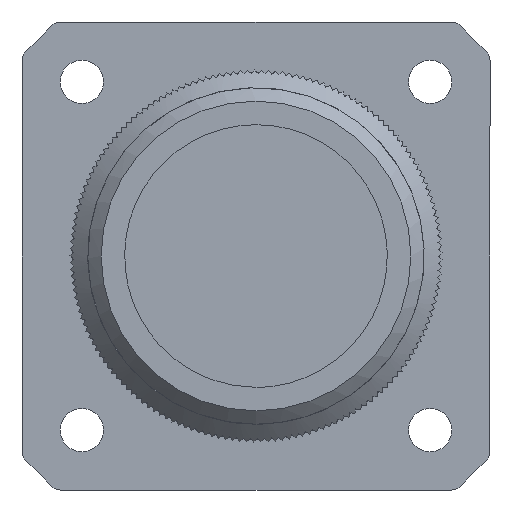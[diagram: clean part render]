
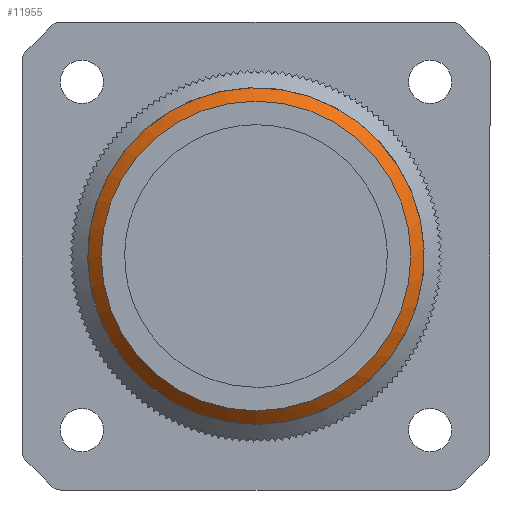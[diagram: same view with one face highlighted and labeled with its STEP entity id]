
A CAD part, front view. The second image highlights one B-rep face of the part: STEP entity #11955.
In plain terms, the highlighted conical face has half-angle 45 degrees and reference radius 11.65 mm.
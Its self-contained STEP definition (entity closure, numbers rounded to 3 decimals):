
#466 = DIRECTION ( 'NONE',  ( 0., -1., 0. ) ) ;
#934 = EDGE_CURVE ( 'NONE', #7652, #7652, #4031, .T. ) ;
#951 = CARTESIAN_POINT ( 'NONE',  ( -25.359, -27.362, -6.306 ) ) ;
#3914 = VERTEX_POINT ( 'NONE', #951 ) ;
#4001 = CARTESIAN_POINT ( 'NONE',  ( -25.359, -28.362, 6.344 ) ) ;
#4031 = CIRCLE ( 'NONE', #11768, 11.65 ) ;
#4106 = DIRECTION ( 'NONE',  ( 0., 0., 1. ) ) ;
#4754 = EDGE_CURVE ( 'NONE', #3914, #3914, #8753, .T. ) ;
#5424 = CONICAL_SURFACE ( 'NONE', #22464, 11.65, 0.785 ) ;
#6007 = DIRECTION ( 'NONE',  ( 0., 1., 0. ) ) ;
#6460 = FACE_OUTER_BOUND ( 'NONE', #11639, .T. ) ;
#7652 = VERTEX_POINT ( 'NONE', #18056 ) ;
#8738 = DIRECTION ( 'NONE',  ( 0., 0., -1. ) ) ;
#8753 = CIRCLE ( 'NONE', #10021, 12.65 ) ;
#10021 = AXIS2_PLACEMENT_3D ( 'NONE', #23276, #21287, #27623 ) ;
#10231 = ORIENTED_EDGE ( 'NONE', *, *, #934, .F. ) ;
#11639 = EDGE_LOOP ( 'NONE', ( #16522 ) ) ;
#11768 = AXIS2_PLACEMENT_3D ( 'NONE', #24067, #466, #8738 ) ;
#11955 = ADVANCED_FACE ( 'NONE', ( #6460, #13556 ), #5424, .T. ) ;
#13556 = FACE_BOUND ( 'NONE', #17888, .T. ) ;
#16522 = ORIENTED_EDGE ( 'NONE', *, *, #4754, .F. ) ;
#17888 = EDGE_LOOP ( 'NONE', ( #10231 ) ) ;
#18056 = CARTESIAN_POINT ( 'NONE',  ( -25.359, -28.362, -5.306 ) ) ;
#21287 = DIRECTION ( 'NONE',  ( 0., 1., 0. ) ) ;
#22464 = AXIS2_PLACEMENT_3D ( 'NONE', #4001, #6007, #4106 ) ;
#23276 = CARTESIAN_POINT ( 'NONE',  ( -25.359, -27.362, 6.344 ) ) ;
#24067 = CARTESIAN_POINT ( 'NONE',  ( -25.359, -28.362, 6.344 ) ) ;
#27623 = DIRECTION ( 'NONE',  ( 0., 0., -1. ) ) ;
